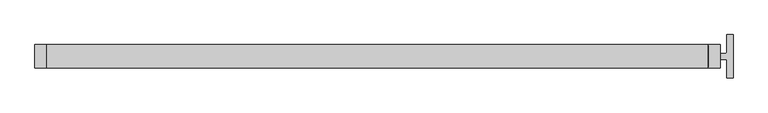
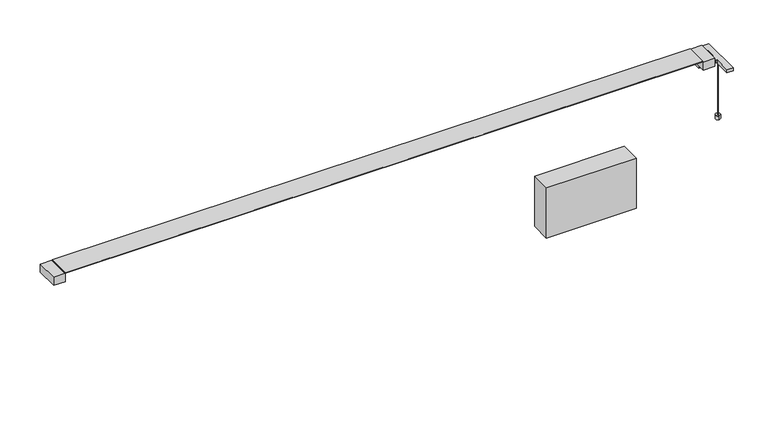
"""IFC4 building model written with IfcOpenShell, lengths in millimetres: light fixture geometry, Fabbian.Pivot F39 (F39 A01A 01,F39 A01A 21,F39 A01A 76,F39 A02A 01,F39 A02A 21,F39 A02A 76) : F39 A01A 01."""

from ifc_helpers import new_model, si_unit, point, frame, frame_2d, origin, origin_with_axes, place, context, project, spatial, polyline, circle_curve, trimmed, segment, composite_curve, outline, extrude, source, transform, mapped, element, save


def light_fixture_3ca2d1e0(model_context):
    return source(origin(), model_context, "Body", "SweptSolid", [
        extrude(outline(composite_curve([segment(trimmed(circle_curve(frame_2d((833.8362553, 0.0)), 0.4949808), [point((834.3312361, 0.0))], [point((833.3412745, 0.0))], False, "CARTESIAN"), True, "CONTINUOUS"), segment(trimmed(circle_curve(frame_2d((833.8362553, 0.0)), 0.4949808), [point((833.3412745, 0.0))], [point((834.3312361, 0.0))], False, "CARTESIAN"), True, "CONTINUOUS")], self_intersect=False)), origin_with_axes(), (0.0, 0.0, 1.0), 151.6242394),
        extrude(outline(polyline([(619.1350388, -24.9666442), (399.1348055, -24.9666442), (399.1348055, 25.0334567), (619.1350388, 25.0334567), (619.1350388, -24.9666442)])), frame((0.0, 0.0, -142.875), z_axis=(0.0, 0.0, 1.0), x_axis=(1.0, 0.0, 0.0)), (0.0, 0.0, 1.0), 130.175),
        extrude(outline(polyline([(0.4107254, 159.893756), (0.4107254, 160.681594), (-0.4107259, 160.681594), (-0.4107259, 159.893756), (-25.5497693, 181.0787506), (26.3879175, 181.0787506), (0.4107254, 159.893756)])), frame((-782.3132834, 0.0, 0.0), z_axis=(1.0, 0.0, 0.0), x_axis=(0.0, 1.0, 0.0)), (0.0, 0.0, 1.0), 1564.6265668),
        extrude(outline(polyline([(-782.3132834, -27.7285043), (-810.5140956, -27.7285043), (-810.5140956, 27.7953166), (-782.3132834, 27.7953166), (-782.3132834, -27.7285043)])), frame((0.0, 0.0, 159.6242394), z_axis=(0.0, 0.0, 1.0), x_axis=(1.0, 0.0, 0.0)), (0.0, 0.0, 1.0), 20.8761838),
        extrude(outline(polyline([(782.3132834, -27.7285042), (782.3132834, 27.7953167), (810.5140956, 27.7953167), (810.5140956, -27.7285042), (782.3132834, -27.7285042)])), frame((0.0, 0.0, 159.6242394), z_axis=(0.0, 0.0, 1.0), x_axis=(1.0, 0.0, 0.0)), (0.0, 0.0, 1.0), 20.8761838),
        extrude(outline(polyline([(0.0, 0.8214513), (1564.6265668, 0.8214513), (1564.6265668, 0.0), (0.0, 0.0), (0.0, 0.8214513)])), frame((-782.3132834, -0.4107259, 159.893756), z_axis=(-5.7155291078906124e-11, 0.0, 1.0), x_axis=(1.0, 0.0, 5.7155291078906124e-11)), (0.0, 0.0, 1.0), 0.787838),
        extrude(outline(polyline([(781.7488887, 27.7780006), (781.7488887, -27.7779986), (-782.3132834, -27.7779986), (-782.3132834, 27.7780006), (781.7488887, 27.7780006)])), frame((0.0, 0.0, 181.0787506), z_axis=(0.0, 0.0, 1.0), x_axis=(1.0, 0.0, 0.0)), (0.0, 0.0, 1.0), 1.1514277),
        extrude(outline(composite_curve([segment(trimmed(circle_curve(frame_2d((833.836284, 0.4556113)), 5.8155806), [point((834.6639767, -5.3007681))], [point((833.0085914, 6.2119906))], False, "CARTESIAN"), True, "CONTINUOUS"), segment(trimmed(circle_curve(frame_2d((833.836284, 0.4556113)), 5.8155806), [point((833.0085914, 6.2119906))], [point((834.6639767, -5.3007681))], False, "CARTESIAN"), True, "CONTINUOUS")], self_intersect=False)), origin_with_axes(), (0.0, 0.0, 1.0), 9.6582083),
        extrude(outline(composite_curve([segment(polyline([(826.3132834, 51.5), (841.3132834, 51.5), (841.3132834, -51.5), (826.3132834, -51.5), (826.3132834, -9.5)]), True, "CONTINUOUS"), segment(trimmed(circle_curve(frame_2d((824.3132834, -9.5)), 2.0), [point((826.3132834, -9.5))], [point((824.3132834, -7.5))], True, "CARTESIAN"), True, "CONTINUOUS"), segment(polyline([(824.3132834, -7.5), (782.3132834, -7.5), (782.3132834, 7.5), (824.3132834, 7.5)]), True, "CONTINUOUS"), segment(trimmed(circle_curve(frame_2d((824.3132834, 9.5)), 2.0), [point((824.3132834, 7.5))], [point((826.3132834, 9.5))], True, "CARTESIAN"), True, "CONTINUOUS"), segment(polyline([(826.3132834, 9.5), (826.3132834, 51.5)]), True, "CONTINUOUS")], self_intersect=False)), frame((0.0, 0.0, 151.6242394), z_axis=(0.0, 0.0, 1.0), x_axis=(1.0, 0.0, 0.0)), (0.0, 0.0, 1.0), 8.0),
    ])


if __name__ == "__main__":
    model = new_model("IFC4")
    model_context = context("Model", 3, world=origin())
    ifc_project = project(units=[si_unit("LENGTHUNIT", "METRE", prefix="MILLI")], contexts=[model_context])
    site = spatial("IfcSite", under=ifc_project)
    building = spatial("IfcBuilding", under=site)
    placement = place(None, origin())
    light_fixture_shape = light_fixture_3ca2d1e0(model_context)
    element("IfcLightFixture", 1, ObjectType="Fabbian.Pivot F39 (F39 A01A 01,F39 A01A 21,F39 A01A 76,F39 A02A 01,F39 A02A 21,F39 A02A 76) : F39 A01A 01", at=placement, inside=building, context=model_context, shape_type="MappedRepresentation", body=[
        mapped(light_fixture_shape, transform((0.0, 0.0, 0.0), x_axis=(1.0, 0.0, 0.0), y_axis=(0.0, 1.0, 0.0), z_axis=(0.0, 0.0, 1.0))),
    ])
    save(model, "model.ifc")
